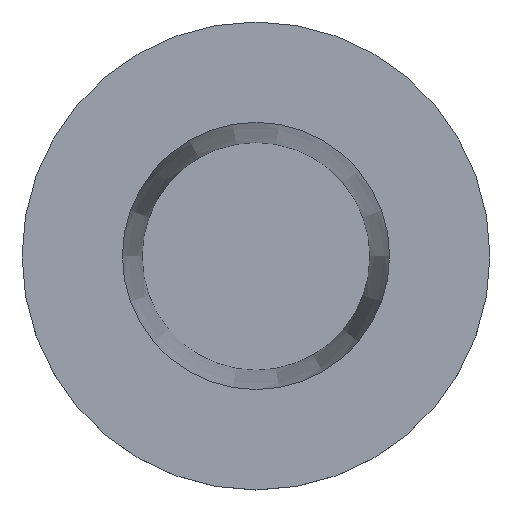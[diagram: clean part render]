
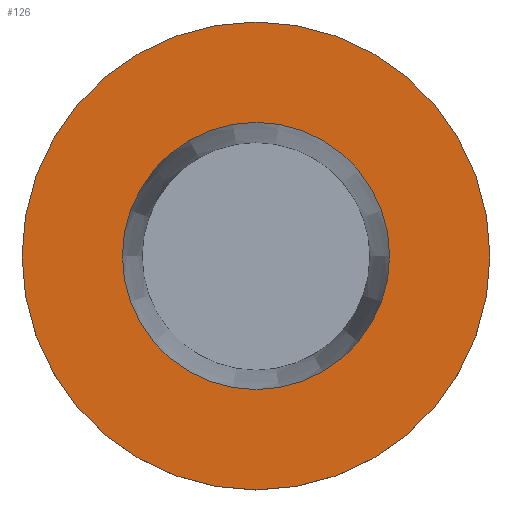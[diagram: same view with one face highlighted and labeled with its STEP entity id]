
A CAD part, top view. The second image highlights one B-rep face of the part: STEP entity #126.
In plain terms, the highlighted planar face has unit normal (0, 0, 1).
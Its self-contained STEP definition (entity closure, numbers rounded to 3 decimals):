
#87=CARTESIAN_POINT('',(14.5,0.,16.));
#88=VERTEX_POINT('',#87);
#95=CARTESIAN_POINT('',(0.,0.,16.));
#96=DIRECTION('',(1.,-0.,-0.));
#97=DIRECTION('',(0.,-0.,1.));
#98=AXIS2_PLACEMENT_3D('',#95,#97,#96);
#99=CIRCLE('',#98,14.5);
#100=EDGE_CURVE('',#88,#88,#99,.T.);
#107=CARTESIAN_POINT('',(0.,0.,16.));
#108=DIRECTION('',(1.,0.,0.));
#109=DIRECTION('',(0.,0.,-1.));
#110=AXIS2_PLACEMENT_3D('',#107,#109,#108);
#111=PLANE('',#110);
#112=ORIENTED_EDGE('',*,*,#100,.F.);
#113=EDGE_LOOP('',(#112));
#114=FACE_OUTER_BOUND('',#113,.F.);
#115=CARTESIAN_POINT('',(8.28,0.,16.));
#116=VERTEX_POINT('',#115);
#117=CARTESIAN_POINT('',(0.,0.,16.));
#118=DIRECTION('',(1.,0.,0.));
#119=DIRECTION('',(0.,0.,1.));
#120=AXIS2_PLACEMENT_3D('',#117,#119,#118);
#121=CIRCLE('',#120,8.28);
#122=EDGE_CURVE('',#116,#116,#121,.T.);
#123=ORIENTED_EDGE('E8',*,*,#122,.T.);
#124=EDGE_LOOP('',(#123));
#125=FACE_BOUND('',#124,.F.);
#126=ADVANCED_FACE('F5',(#114,#125),#111,.F.);
